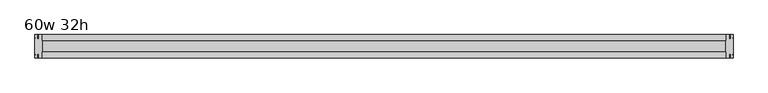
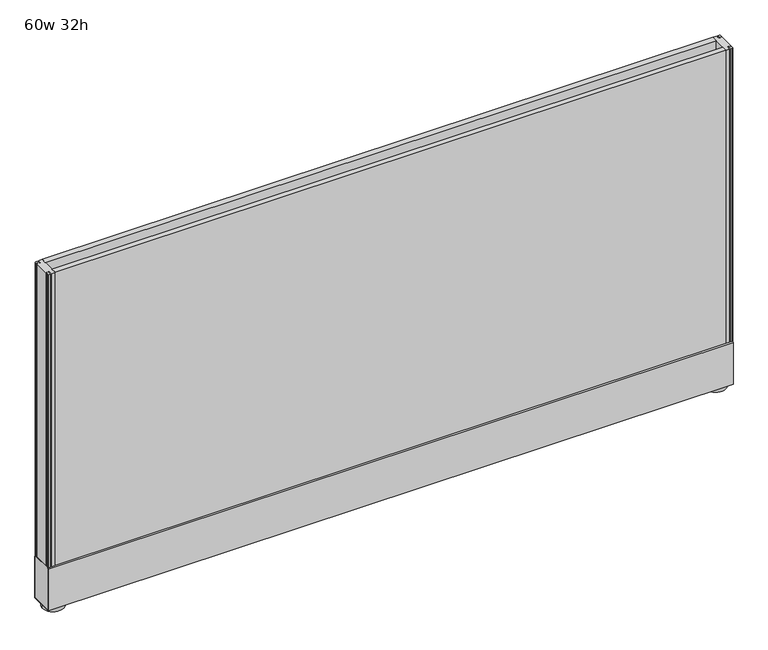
"""IFC4 building model written with IfcOpenShell, lengths in millimetres: furniture geometry, Haworth_UniGroupToo_Panel_Solid : 60w 32h."""

from ifc_helpers import new_model, si_unit, point, frame, frame_2d, origin, origin_with_axes, place, context, project, spatial, polyline, circle_curve, trimmed, segment, composite_curve, outline, extrude, source, transform, mapped, element, save


def furniture_60w_32h_4a79a10c(model_context):
    return source(origin(), model_context, "Body", "SweptSolid", [
        extrude(outline(polyline([(-743.6847098, 25.4), (748.5652902, 25.4), (748.5652902, 12.7), (-743.6847098, 12.7), (-743.6847098, 25.4)])), frame((0.0, 0.0, 111.125), z_axis=(0.0, 0.0, 1.0), x_axis=(1.0, 0.0, 0.0)), (0.0, 0.0, 1.0), 688.975),
        extrude(outline(polyline([(748.5652902, -25.4), (-743.6847098, -25.4), (-743.6847098, -12.7), (748.5652902, -12.7), (748.5652902, -25.4)])), frame((0.0, 0.0, 111.125), z_axis=(0.0, 0.0, 1.0), x_axis=(1.0, 0.0, 0.0)), (0.0, 0.0, 1.0), 688.975),
        extrude(outline(polyline([(-759.5597098, -16.5777477), (-759.5597098, 16.5777477), (-757.8959283, 16.5777477), (-757.8959283, 19.6514836), (-759.5597098, 19.6514836), (-759.5597098, 23.7362925), (-757.8960023, 25.4), (-754.7358151, 25.4), (-754.7358151, 16.3224762), (-751.5639389, 16.3224762), (-751.5639389, 25.4), (-743.6847098, 25.4), (-743.6847098, -25.4), (-751.5639389, -25.4), (-751.5639389, -16.3224762), (-754.7358151, -16.3224762), (-754.7358151, -25.4), (-757.8960023, -25.4), (-759.5597098, -23.7362925), (-759.5597098, -19.6514836), (-757.8959283, -19.6514836), (-757.8959283, -16.5777477), (-759.5597098, -16.5777477)])), frame((0.0, 0.0, 111.125), z_axis=(0.0, 0.0, 1.0), x_axis=(1.0, 0.0, 0.0)), (0.0, 0.0, 1.0), 688.975),
        extrude(outline(polyline([(764.4402902, -16.5777477), (762.7765086, -16.5777477), (762.7765086, -19.6514836), (764.4402902, -19.6514836), (764.4402902, -23.7362925), (762.7765827, -25.4), (759.6163954, -25.4), (759.6163954, -16.3224762), (756.4445192, -16.3224762), (756.4445192, -25.4), (748.5652902, -25.4), (748.5652902, 25.4), (756.4445192, 25.4), (756.4445192, 16.3224762), (759.6163954, 16.3224762), (759.6163954, 25.4), (762.7765827, 25.4), (764.4402902, 23.7362925), (764.4402902, 19.6514836), (762.7765086, 19.6514836), (762.7765086, 16.5777477), (764.4402902, 16.5777477), (764.4402902, -16.5777477)])), frame((0.0, 0.0, 111.125), z_axis=(0.0, 0.0, 1.0), x_axis=(1.0, 0.0, 0.0)), (0.0, 0.0, 1.0), 688.975),
        extrude(outline(composite_curve([segment(trimmed(circle_curve(frame_2d((-734.1597098, 0.0)), 23.8125), [point((-757.9722098, 0.0))], [point((-710.3472098, 0.0))], False, "CARTESIAN"), True, "CONTINUOUS"), segment(trimmed(circle_curve(frame_2d((-734.1597098, 0.0)), 23.8125), [point((-710.3472098, 0.0))], [point((-757.9722098, 0.0))], False, "CARTESIAN"), True, "CONTINUOUS")], self_intersect=False)), origin_with_axes(), (0.0, 0.0, 1.0), 9.525),
        extrude(outline(composite_curve([segment(trimmed(circle_curve(frame_2d((739.0402902, 0.0)), 23.8125), [point((715.2277902, 0.0))], [point((762.8527902, 0.0))], False, "CARTESIAN"), True, "CONTINUOUS"), segment(trimmed(circle_curve(frame_2d((739.0402902, 0.0)), 23.8125), [point((762.8527902, 0.0))], [point((715.2277902, 0.0))], False, "CARTESIAN"), True, "CONTINUOUS")], self_intersect=False)), origin_with_axes(), (0.0, 0.0, 1.0), 9.525),
        extrude(outline(polyline([(-23.9117188, 11.0132813), (-23.9117188, 107.188), (-21.463, 109.6367188), (21.463, 109.6367188), (23.9117187, 107.188), (23.9117187, 11.0132813), (-23.9117188, 11.0132813)])), frame((762.8527902, 0.0, 0.0), z_axis=(1.0, 0.0, 0.0), x_axis=(0.0, 1.0, 0.0)), (0.0, 0.0, 1.0), 1.5875),
        extrude(outline(polyline([(-23.9117188, 11.0132813), (-23.9117188, 107.188), (-21.463, 109.6367188), (21.463, 109.6367188), (23.9117187, 107.188), (23.9117187, 11.0132813), (-23.9117188, 11.0132813)])), frame((-759.5597098, 0.0, 0.0), z_axis=(1.0, 0.0, 0.0), x_axis=(0.0, 1.0, 0.0)), (0.0, 0.0, 1.0), 1.5875),
        extrude(outline(polyline([(-25.4, 107.188), (-21.463, 111.125), (-21.463, 109.6367188), (-23.9117188, 107.188), (-23.9117188, 11.0132813), (23.9117188, 11.0132813), (23.9117188, 107.188), (21.463, 109.6367188), (21.463, 111.125), (25.4, 107.188), (25.4, 9.525), (-25.4, 9.525), (-25.4, 107.188)])), frame((-759.5597098, 0.0, 0.0), z_axis=(1.0, 0.0, 0.0), x_axis=(0.0, 1.0, 0.0)), (0.0, 0.0, 1.0), 1524.0),
    ])


if __name__ == "__main__":
    model = new_model("IFC4")
    model_context = context("Model", 3, world=origin())
    ifc_project = project(units=[si_unit("LENGTHUNIT", "METRE", prefix="MILLI")], contexts=[model_context])
    site = spatial("IfcSite", under=ifc_project)
    building = spatial("IfcBuilding", under=site)
    placement = place(None, origin())
    furniture_60w_32h_shape = furniture_60w_32h_4a79a10c(model_context)
    element("IfcFurniture", 1, ObjectType="Haworth_UniGroupToo_Panel_Solid : 60w 32h", at=placement, inside=building, context=model_context, shape_type="MappedRepresentation", body=[
        mapped(furniture_60w_32h_shape, transform((0.0, 0.0, 0.0), x_axis=(1.0, 0.0, 0.0), y_axis=(0.0, 1.0, 0.0), z_axis=(0.0, 0.0, 1.0))),
    ])
    save(model, "model.ifc")
